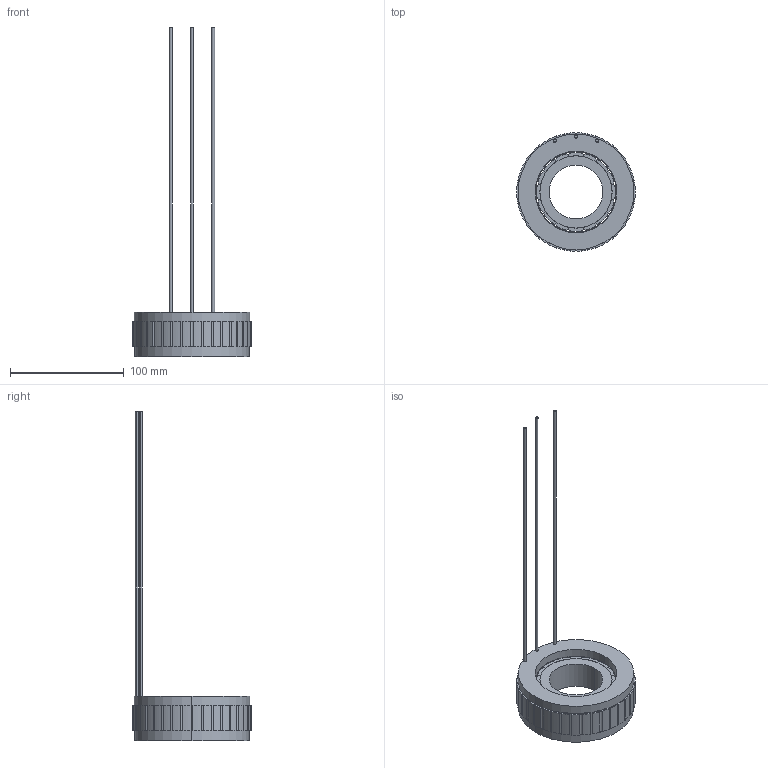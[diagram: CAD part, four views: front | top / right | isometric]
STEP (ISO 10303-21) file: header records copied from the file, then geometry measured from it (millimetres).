
FILE_DESCRIPTION (( 'STEP AP203' ), '1' );
FILE_NAME ('307080344SS FMC10422-0100-3047N-8DS-V1.0.STEP', '2023-02-22T08:05:05', ( 'muse' ), ( 'muse' ), 'SwSTEP 2.0', 'SolidWorks 2022', '' );
FILE_SCHEMA (( 'CONFIG_CONTROL_DESIGN' ));
Length unit declared in the file: millimetre
Products named in the file (1): 307080344SS FMC10422-0100-3047N-8DS-V1.0
Bounding box: 103.99 x 103.98 x 288.8 mm (x, y, z)
Volume: 186947.7 mm3; surface area: 92871.8 mm2
Topology: 19 solids, 19 shells, 1020 faces, 2826 edges, 1848 vertices
Faces by surface type: plane 596, cylinder 424
Entity records: 32771 total; most frequent: DIRECTION 5860, CARTESIAN_POINT 5695, ORIENTED_EDGE 5652, EDGE_CURVE 2826, AXIS2_PLACEMENT_3D 2013, VERTEX_POINT 1848, VECTOR 1834, LINE 1834
